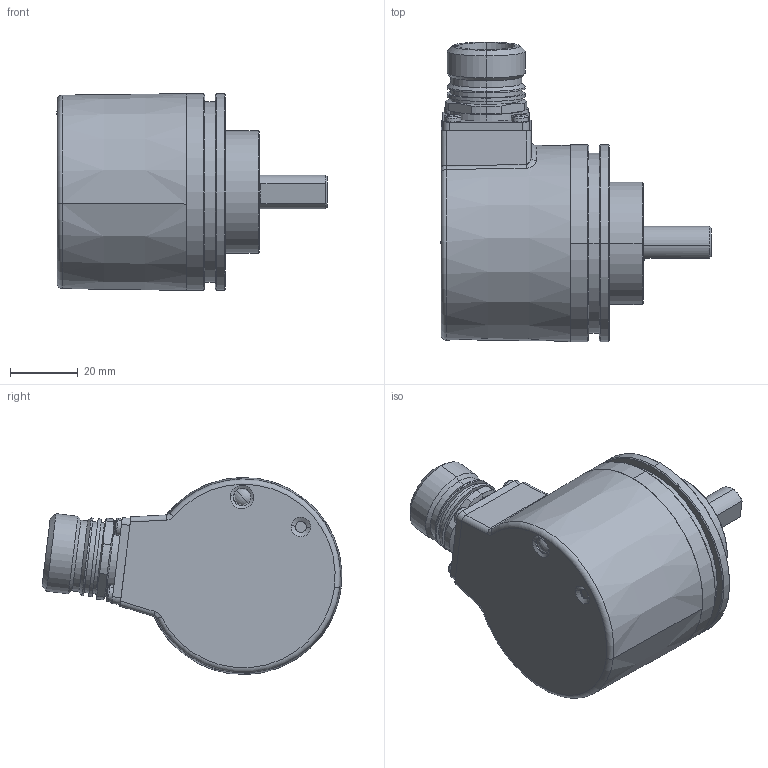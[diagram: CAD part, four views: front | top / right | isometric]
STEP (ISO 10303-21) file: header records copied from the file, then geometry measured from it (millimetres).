
FILE_DESCRIPTION (( 'STEP AP214' ), '1' );
FILE_NAME ('5863SIL.12X4.XXXX.STEP', '2010-11-03T07:41:25', ( 'admin' ), ( 'Fritz Kübler GmbH' ), 'SwSTEP 2.0', 'SolidWorks 2009', '' );
FILE_SCHEMA (( 'AUTOMOTIVE_DESIGN' ));
Length unit declared in the file: millimetre
Products named in the file (1): 5863SIL.12X4.XXXX
Bounding box: 79.6 x 88.28 x 58 mm (x, y, z)
Surface area: 24478.1 mm2 (no closed solid volume)
Topology: 0 solids, 33 shells, 335 faces, 870 edges, 553 vertices
Faces by surface type: cylinder 135, plane 91, cone 43, sphere 32, torus 28, bspline 6
Entity records: 15085 total; most frequent: CARTESIAN_POINT 2980, DIRECTION 1998, ORIENTED_EDGE 1530, EDGE_CURVE 848, AXIS2_PLACEMENT_3D 848, VERTEX_POINT 553, CIRCLE 518, EDGE_LOOP 385
